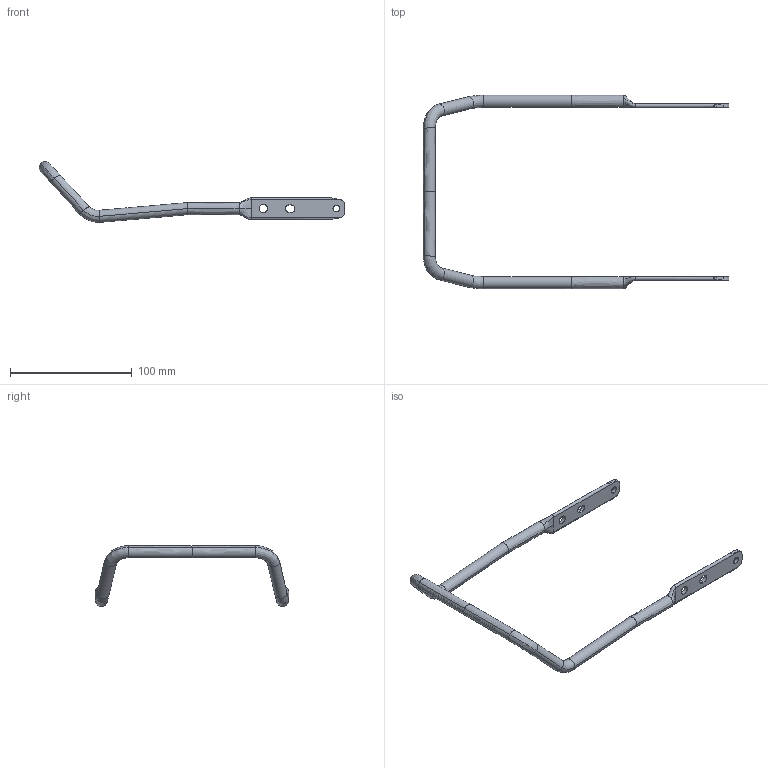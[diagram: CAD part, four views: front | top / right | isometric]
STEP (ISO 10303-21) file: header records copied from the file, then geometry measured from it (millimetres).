
FILE_DESCRIPTION(('CATIA V5 STEP Exchange'),'2;1');
FILE_NAME('F:\福田A6\5-装车应对方案\数据\滑轨解锁手柄\huaguijiesuoshoubing20230918.stp','2023-11-23T07:13:38+00:00',('none'),('none'),'CATIA Version 5 Release 20 GA (IN-10)','CATIA V5 STEP AP214','none');
FILE_SCHEMA(('AUTOMOTIVE_DESIGN { 1 0 10303 214 1 1 1 1 }'));
Length unit declared in the file: millimetre
Products named in the file (1): 零件1
Bounding box: 251.37 x 159 x 50 mm (x, y, z)
Volume: 27636.1 mm3; surface area: 32230 mm2
Topology: 1 solids, 2 shells, 100 faces, 262 edges, 166 vertices
Faces by surface type: extrusion 24, cylinder 24, bspline 20, revolution 16, plane 16
Entity records: 7691 total; most frequent: CARTESIAN_POINT 5572, ORIENTED_EDGE 524, EDGE_CURVE 262, DIRECTION 225, B_SPLINE_CURVE_WITH_KNOTS 167, VERTEX_POINT 166, EDGE_LOOP 112, ADVANCED_FACE 100
